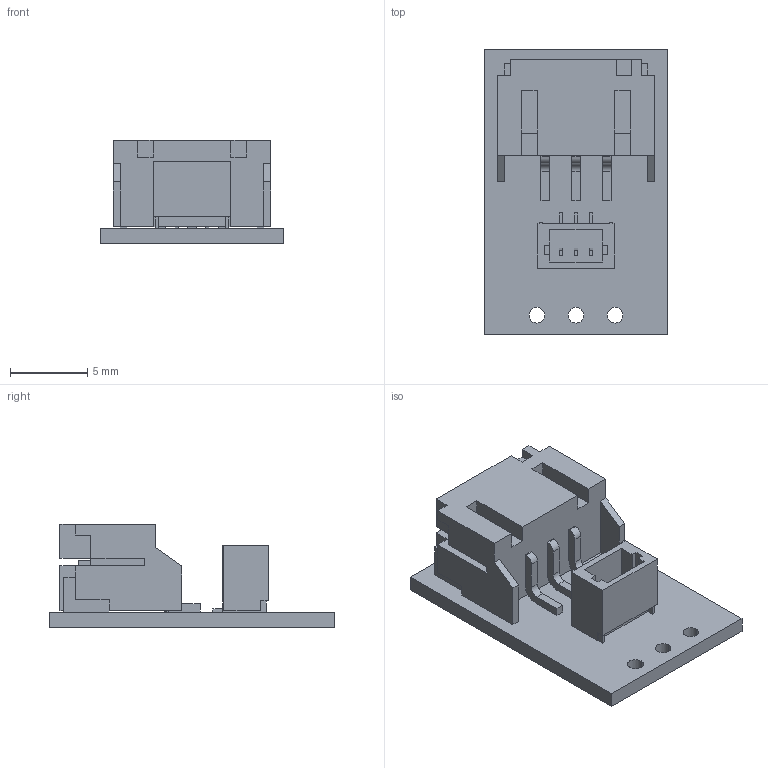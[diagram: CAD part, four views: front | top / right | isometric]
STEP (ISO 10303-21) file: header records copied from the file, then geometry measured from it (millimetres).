
FILE_DESCRIPTION (( 'STEP AP214' ), '1' );
FILE_NAME ('jst-ph-style-3-pin-side-entry.step', '2025-08-19T21:18:48', ( '' ), ( '' ), 'SwSTEP 2.0', 'SolidWorks 2025', '' );
FILE_SCHEMA (( 'AUTOMOTIVE_DESIGN' ));
Length unit declared in the file: millimetre
Products named in the file (1): jst-ph-style-3-pin-side-entry
Bounding box: 11.94 x 18.54 x 6.72 mm (x, y, z)
Volume: 453.1 mm3; surface area: 1168.6 mm2
Topology: 1 solids, 1 shells, 580 faces, 1594 edges, 1058 vertices
Faces by surface type: plane 371, bspline 194, cylinder 15
Entity records: 31959 total; most frequent: CARTESIAN_POINT 12059, ORIENTED_EDGE 3188, DIRECTION 2010, EDGE_CURVE 1594, VECTOR 1176, LINE 1176, VERTEX_POINT 1058, EDGE_LOOP 648
